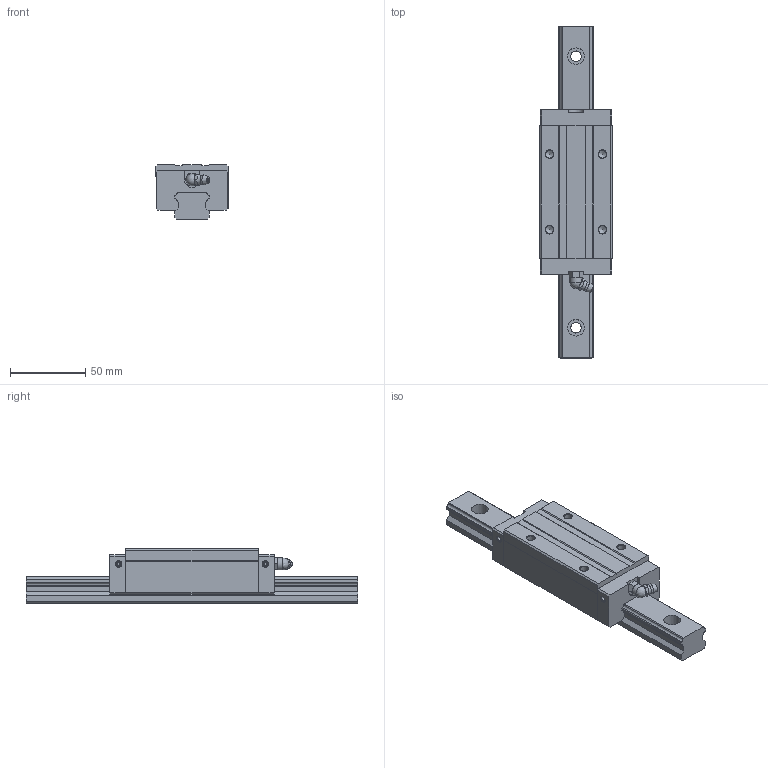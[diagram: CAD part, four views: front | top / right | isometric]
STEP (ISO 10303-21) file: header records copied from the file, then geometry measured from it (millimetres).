
FILE_DESCRIPTION(/* description */ (''),/* implementation_level */ '2;1');
FILE_NAME(/* name */ 'SME25-LSV',/* time_stamp */ '2008-10-06T09:44:17+08:00',/* author */ (''),/* organization */ (''),/* preprocessor_version */ 'ST-DEVELOPER v11',/* originating_system */ 'UGS - NX 5.0',/* authorisation */ '');
FILE_SCHEMA (('AUTOMOTIVE_DESIGN { 1 0 10303 214 1 1 1 1 }'));
Length unit declared in the file: millimetre
Products named in the file (1): SME25LSV_UG
Bounding box: 48 x 220 x 36 mm (x, y, z)
Volume: 202790.9 mm3; surface area: 44198.7 mm2
Topology: 3 solids, 3 shells, 175 faces, 455 edges, 300 vertices
Faces by surface type: plane 103, cylinder 49, cone 13, torus 7, sphere 2, bspline 1
Full cylindrical faces by diameter (mm): 2 x4, 3.3 x4, 5.2 x4, 6.5 x2, 7 x4, 8 x1, 11 x4
Entity records: 5397 total; most frequent: CARTESIAN_POINT 1026, DIRECTION 848, ORIENTED_EDGE 790, EDGE_CURVE 395, AXIS2_PLACEMENT_3D 298, VERTEX_POINT 284, LINE 252, VECTOR 252
